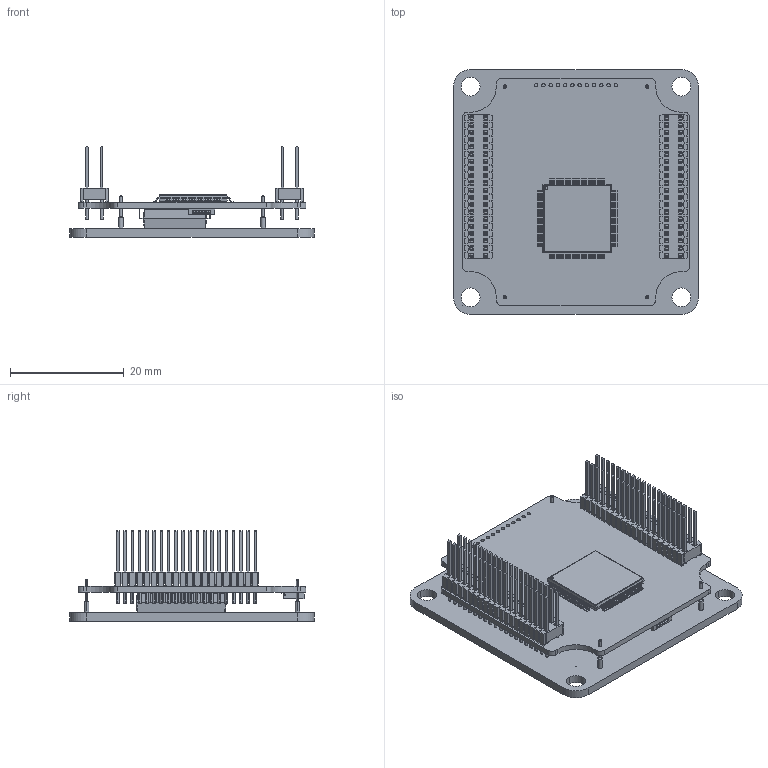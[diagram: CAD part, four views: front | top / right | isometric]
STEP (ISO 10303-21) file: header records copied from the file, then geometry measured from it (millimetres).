
FILE_DESCRIPTION(('Open CASCADE Model'),'2;1');
FILE_NAME('Open CASCADE Shape Model','2017-01-03T12:37:14',('Author'),( 'Open CASCADE'),'Open CASCADE STEP processor 6.8','Open CASCADE 6.8' ,'Unknown');
FILE_SCHEMA(('AUTOMOTIVE_DESIGN { 1 0 10303 214 1 1 1 1 }'));
Length unit declared in the file: millimetre
Products named in the file (31): PCB; Board; Free-Models; i039-01H1; P4; MOLEX_51281-0594; B3; mill-max-1267-0-00-01-00-00-03-0; B4; B2; B1; U13; User_Library-IPC_QFP-fullQFP40P1400X1400X120-100N_MS-026ADE_VHC100A; ORIGIN1; 751901584; Sphere; P1; Samtec_MTMS-120-53-G-D-285; _MTMS-120-D_terminal; _T-1M6-20-53-D-285__; P6; U14; 903808304; Open_CASCADE_STEP_translator_6.8_19.1; Body; Open_CASCADE_STEP_translator_6.8_19.2.1; Leader; 581849640; Extruded; i039-01M1
Assembly tree (69 placements, depth 7):
  PCB
    Board
    Free-Models
      i039-01H1
        Board
        P4
          MOLEX_51281-0594
        B3
          mill-max-1267-0-00-01-00-00-03-0
        B4
          mill-max-1267-0-00-01-00-00-03-0
        B2
          mill-max-1267-0-00-01-00-00-03-0
        B1
          mill-max-1267-0-00-01-00-00-03-0
        U13
          User_Library-IPC_QFP-fullQFP40P1400X1400X120-100N_MS-026ADE_VHC100A
        ORIGIN1
          751901584
            Sphere
        P1
          Samtec_MTMS-120-53-G-D-285
            _MTMS-120-D_terminal
            _T-1M6-20-53-D-285__
        P6
          Samtec_MTMS-120-53-G-D-285
            _MTMS-120-D_terminal
            _T-1M6-20-53-D-285__
        U14
          903808304
            Open_CASCADE_STEP_translator_6.8_19.1
            Body
              Open_CASCADE_STEP_translator_6.8_19.2.1
            Leader  x36
          581849640
            Extruded
      i039-01M1
Bounding box: 43 x 43 x 15.88 mm (x, y, z)
Volume: 5702.4 mm3; surface area: 11880.9 mm2
Topology: 72 solids, 73 shells, 5840 faces, 15003 edges, 9273 vertices
Faces by surface type: plane 4792, cylinder 925, cone 104, sphere 11, bspline 8
Full cylindrical faces by diameter (mm): 0.6 x96, 1.387 x1, 4 x1
Entity records: 306563 total; most frequent: CARTESIAN_POINT 104466, DIRECTION 32181, LINE 21671, VECTOR 21671, ORIENTED_EDGE 18415, PCURVE 18395, DEFINITIONAL_REPRESENTATION 18395, EDGE_CURVE 9198
